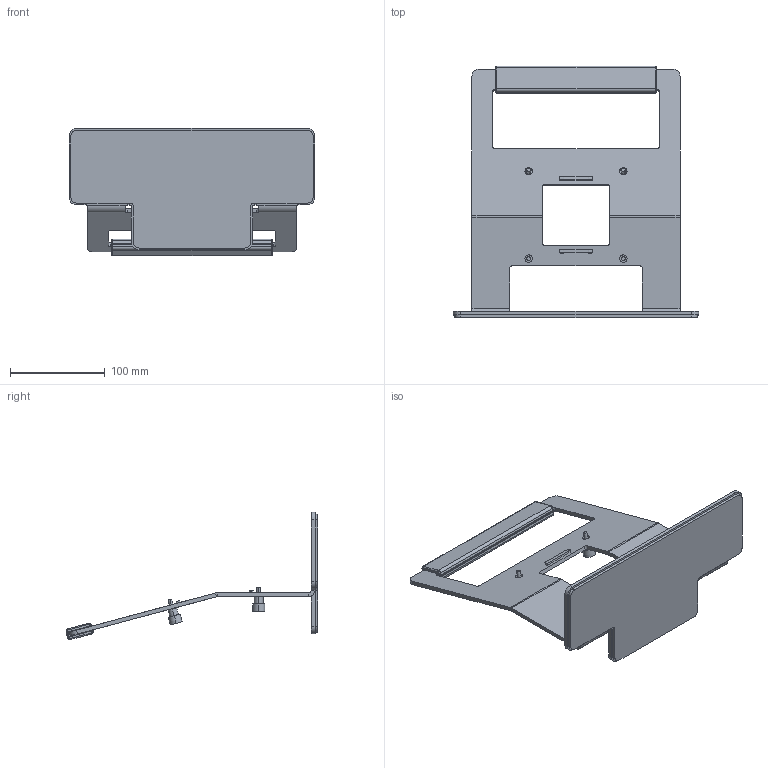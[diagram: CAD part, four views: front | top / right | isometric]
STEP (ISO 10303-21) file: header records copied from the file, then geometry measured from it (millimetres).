
FILE_DESCRIPTION((''),'2;1');
FILE_NAME('MODULE_STAND_LXN_ASM','2024-05-22T14:16:50',('mthomps2'),(''),'CREO PARAMETRIC BY PTC INC, 2022284','CREO PARAMETRIC BY PTC INC, 2022284','');
FILE_SCHEMA(('CONFIG_CONTROL_DESIGN','SHAPE_APPEARANCE_LAYERS_GROUPS'));
Products named in the file (1): MODULE_STAND_LXN_ASM
Bounding box: 260 x 266.43 x 134.56 mm (x, y, z)
Volume: 374332.8 mm3; surface area: 158194.4 mm2
Topology: 1 solids, 9 shells, 1273 faces, 3252 edges, 2032 vertices
Faces by surface type: plane 457, cylinder 400, cone 198, bspline 86, torus 76, extrusion 32, sphere 24
Entity records: 52779 total; most frequent: CARTESIAN_POINT 15263, ORIENTED_EDGE 6504, DIRECTION 5253, EDGE_CURVE 3252, VERTEX_POINT 2032, AXIS2_PLACEMENT_3D 1916, VECTOR 1421, LINE 1389
